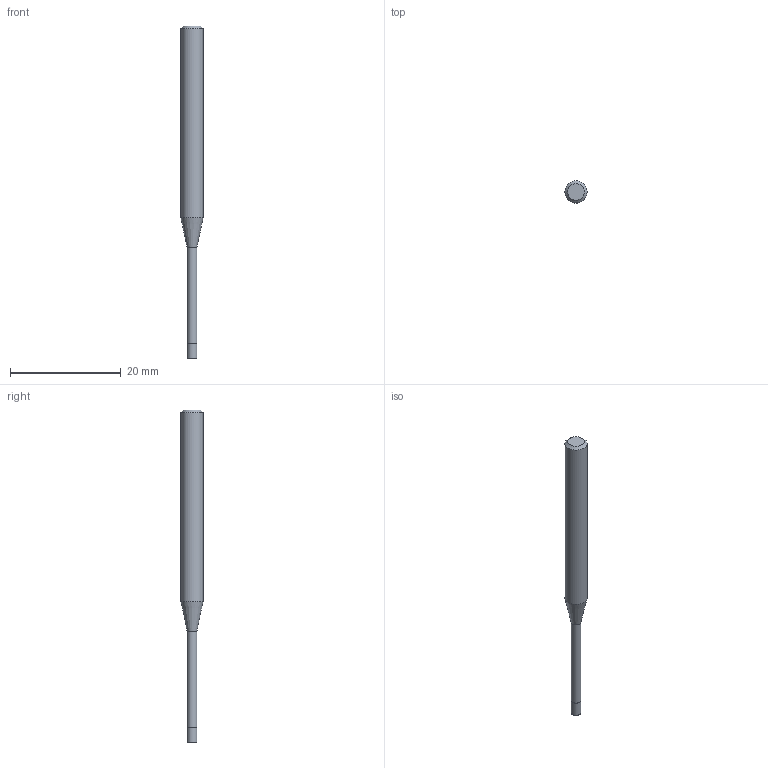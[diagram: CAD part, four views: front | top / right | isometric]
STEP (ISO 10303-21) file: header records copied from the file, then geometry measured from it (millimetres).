
FILE_DESCRIPTION((''),'2;1');
FILE_NAME('C:\Users\nsx150\AppData\Local\Temp\Mastercam 2021\17T8Q8S9EB\TEMP.step','2021-04-21T16:15:28',(''),(''),'STEP Write','Mastercam 2021 ... CNC Software, Inc.','');
FILE_SCHEMA(('AUTOMOTIVE_DESIGN'));
Length unit declared in the file: millimetre
Products named in the file (1): None
Bounding box: 4 x 4 x 60 mm (x, y, z)
Volume: 518.6 mm3; surface area: 610.7 mm2
Topology: 2 solids, 2 shells, 9 faces, 12 edges, 7 vertices
Faces by surface type: plane 4, cylinder 3, cone 2
Full cylindrical faces by diameter (mm): 1.74 x1, 1.8 x1, 4 x1
Entity records: 211 total; most frequent: DIRECTION 36, CARTESIAN_POINT 25, AXIS2_PLACEMENT_3D 18, ORIENTED_EDGE 14, EDGE_LOOP 14, STYLED_ITEM 12, ADVANCED_FACE 9, FACE_BOUND 8
